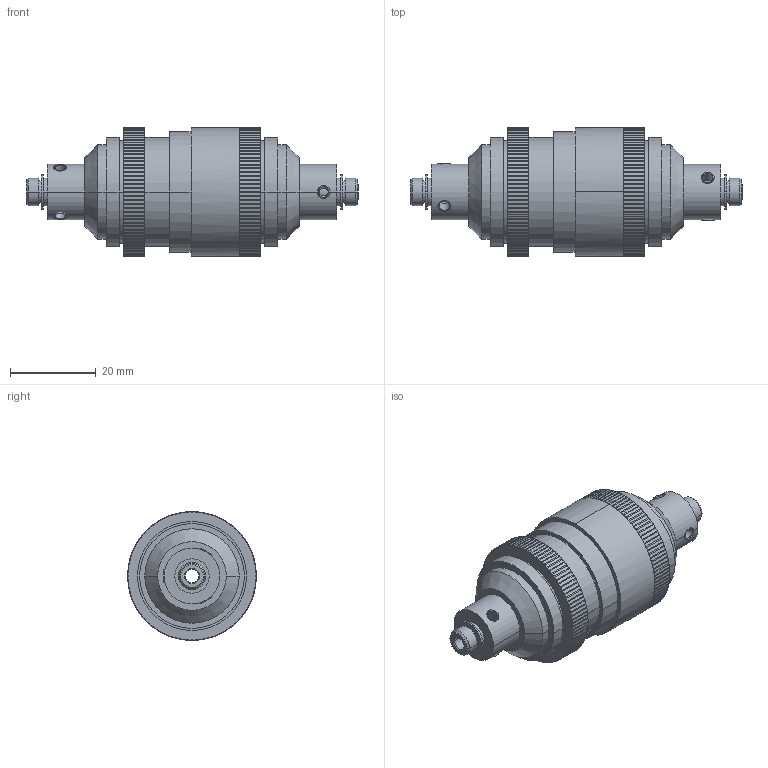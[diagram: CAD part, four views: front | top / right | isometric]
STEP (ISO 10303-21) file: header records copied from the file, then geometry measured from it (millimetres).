
FILE_DESCRIPTION((''),'2;1');
FILE_NAME('175005','2016-09-13T',('zkm'),(''),'PRO/ENGINEER BY PARAMETRIC TECHNOLOGY CORPORATION, 2004110','PRO/ENGINEER BY PARAMETRIC TECHNOLOGY CORPORATION, 2004110','');
FILE_SCHEMA(('CONFIG_CONTROL_DESIGN'));
Length unit declared in the file: millimetre
Products named in the file (1): 175005
Bounding box: 77.35 x 30 x 30 mm (x, y, z)
Volume: 13359.7 mm3; surface area: 18068.5 mm2
Topology: 1 solids, 25 shells, 669 faces, 1800 edges, 1188 vertices
Faces by surface type: cylinder 554, plane 71, cone 44
Entity records: 21941 total; most frequent: DIRECTION 4264, CARTESIAN_POINT 4051, ORIENTED_EDGE 3516, AXIS2_PLACEMENT_3D 1818, EDGE_CURVE 1800, VERTEX_POINT 1188, CIRCLE 1148, EDGE_LOOP 730
